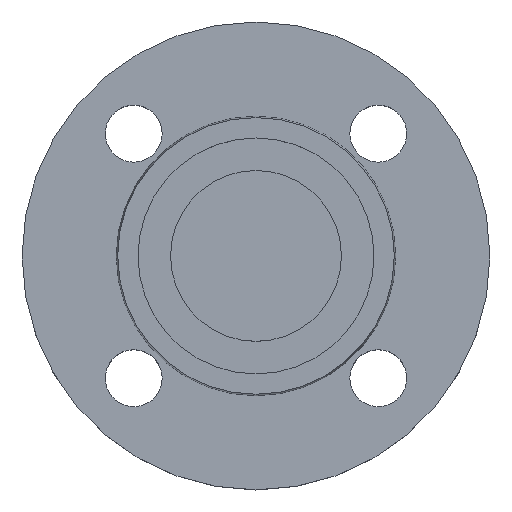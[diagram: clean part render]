
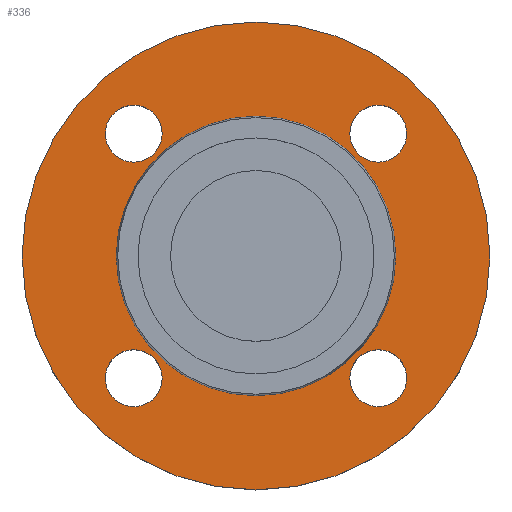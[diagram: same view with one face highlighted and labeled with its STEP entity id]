
A CAD part, top view. The second image highlights one B-rep face of the part: STEP entity #336.
In plain terms, the highlighted planar face has unit normal (0, 0, 1).
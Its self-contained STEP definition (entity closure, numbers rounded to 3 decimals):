
#10 = AXIS2_PLACEMENT_3D ( 'NONE', #650, #651, #652 ) ;
#14 = CIRCLE ( 'NONE', #136, 7. ) ;
#20 = CARTESIAN_POINT ( 'NONE',  ( -57.5, 0., -2. ) ) ;
#30 = DIRECTION ( 'NONE',  ( 0., 0., -1. ) ) ;
#34 = EDGE_CURVE ( 'NONE', #303, #452, #14, .T. ) ;
#44 = CIRCLE ( 'NONE', #184, 7. ) ;
#46 = CARTESIAN_POINT ( 'NONE',  ( -30.052, -30.052, -2. ) ) ;
#49 = DIRECTION ( 'NONE',  ( 1., 0., 0. ) ) ;
#57 = CARTESIAN_POINT ( 'NONE',  ( -34.353, 0., -2. ) ) ;
#61 = CIRCLE ( 'NONE', #86, 7. ) ;
#62 = EDGE_CURVE ( 'NONE', #456, #438, #676, .T. ) ;
#65 = CARTESIAN_POINT ( 'NONE',  ( -37.052, -30.052, -2. ) ) ;
#86 = AXIS2_PLACEMENT_3D ( 'NONE', #517, #518, #519 ) ;
#90 = AXIS2_PLACEMENT_3D ( 'NONE', #169, #180, #181 ) ;
#94 = CARTESIAN_POINT ( 'NONE',  ( 34.353, 0., -2. ) ) ;
#97 = CIRCLE ( 'NONE', #363, 7. ) ;
#103 = DIRECTION ( 'NONE',  ( 0., 0., -1. ) ) ;
#106 = CARTESIAN_POINT ( 'NONE',  ( -30.052, 30.052, -2. ) ) ;
#108 = EDGE_CURVE ( 'NONE', #380, #421, #61, .T. ) ;
#112 = CARTESIAN_POINT ( 'NONE',  ( 23.052, 30.052, -2. ) ) ;
#118 = CARTESIAN_POINT ( 'NONE',  ( 0., 0., -2. ) ) ;
#119 = EDGE_CURVE ( 'NONE', #421, #380, #194, .T. ) ;
#121 = DIRECTION ( 'NONE',  ( 0., 0., -1. ) ) ;
#122 = DIRECTION ( 'NONE',  ( -1., 0., 0. ) ) ;
#123 = CARTESIAN_POINT ( 'NONE',  ( 0., 0., -2. ) ) ;
#124 = DIRECTION ( 'NONE',  ( 0., 0., -1. ) ) ;
#126 = DIRECTION ( 'NONE',  ( -1., 0., 0. ) ) ;
#129 = CARTESIAN_POINT ( 'NONE',  ( -37.052, 30.052, -2. ) ) ;
#135 = AXIS2_PLACEMENT_3D ( 'NONE', #582, #583, #584 ) ;
#136 = AXIS2_PLACEMENT_3D ( 'NONE', #495, #496, #497 ) ;
#146 = CIRCLE ( 'NONE', #10, 7. ) ;
#158 = EDGE_CURVE ( 'NONE', #452, #303, #215, .T. ) ;
#160 = FACE_BOUND ( 'NONE', #327, .T. ) ;
#161 = FACE_BOUND ( 'NONE', #462, .T. ) ;
#163 = FACE_BOUND ( 'NONE', #448, .T. ) ;
#164 = FACE_BOUND ( 'NONE', #459, .T. ) ;
#165 = FACE_BOUND ( 'NONE', #339, .T. ) ;
#166 = FACE_OUTER_BOUND ( 'NONE', #436, .T. ) ;
#168 = PLANE ( 'NONE',  #90 ) ;
#169 = CARTESIAN_POINT ( 'NONE',  ( 34.353, 0., -2. ) ) ;
#171 = EDGE_CURVE ( 'NONE', #438, #456, #253, .T. ) ;
#173 = AXIS2_PLACEMENT_3D ( 'NONE', #118, #121, #122 ) ;
#179 = CARTESIAN_POINT ( 'NONE',  ( 37.052, 30.052, -2. ) ) ;
#180 = DIRECTION ( 'NONE',  ( 0., 0., 1. ) ) ;
#181 = DIRECTION ( 'NONE',  ( 1., 0., 0. ) ) ;
#184 = AXIS2_PLACEMENT_3D ( 'NONE', #656, #657, #658 ) ;
#190 = DIRECTION ( 'NONE',  ( 0., 0., -1. ) ) ;
#194 = CIRCLE ( 'NONE', #333, 7. ) ;
#198 = CARTESIAN_POINT ( 'NONE',  ( 57.5, 0., -2. ) ) ;
#206 = AXIS2_PLACEMENT_3D ( 'NONE', #46, #30, #49 ) ;
#210 = CIRCLE ( 'NONE', #206, 7. ) ;
#214 = AXIS2_PLACEMENT_3D ( 'NONE', #106, #103, #675 ) ;
#215 = CIRCLE ( 'NONE', #214, 7. ) ;
#229 = AXIS2_PLACEMENT_3D ( 'NONE', #123, #124, #126 ) ;
#233 = CIRCLE ( 'NONE', #229, 34.353 ) ;
#252 = EDGE_CURVE ( 'NONE', #453, #271, #146, .T. ) ;
#253 = CIRCLE ( 'NONE', #135, 57.5 ) ;
#258 = CARTESIAN_POINT ( 'NONE',  ( -23.052, 30.052, -2. ) ) ;
#261 = CARTESIAN_POINT ( 'NONE',  ( 23.052, -30.052, -2. ) ) ;
#262 = EDGE_CURVE ( 'NONE', #473, #293, #44, .T. ) ;
#266 = DIRECTION ( 'NONE',  ( 1., 0., 0. ) ) ;
#267 = CARTESIAN_POINT ( 'NONE',  ( 37.052, -30.052, -2. ) ) ;
#271 = VERTEX_POINT ( 'NONE', #659 ) ;
#293 = VERTEX_POINT ( 'NONE', #112 ) ;
#294 = EDGE_CURVE ( 'NONE', #437, #431, #542, .T. ) ;
#297 = EDGE_CURVE ( 'NONE', #431, #437, #233, .T. ) ;
#303 = VERTEX_POINT ( 'NONE', #129 ) ;
#306 = AXIS2_PLACEMENT_3D ( 'NONE', #503, #504, #505 ) ;
#327 = EDGE_LOOP ( 'NONE', ( #415, #413 ) ) ;
#333 = AXIS2_PLACEMENT_3D ( 'NONE', #526, #527, #528 ) ;
#336 = ADVANCED_FACE ( 'NONE', ( #160, #161, #163, #164, #165, #166 ), #168, .T. ) ;
#339 = EDGE_LOOP ( 'NONE', ( #400, #398 ) ) ;
#359 = EDGE_CURVE ( 'NONE', #271, #453, #210, .T. ) ;
#363 = AXIS2_PLACEMENT_3D ( 'NONE', #368, #190, #266 ) ;
#368 = CARTESIAN_POINT ( 'NONE',  ( 30.052, 30.052, -2. ) ) ;
#380 = VERTEX_POINT ( 'NONE', #261 ) ;
#395 = ORIENTED_EDGE ( 'NONE', *, *, #171, .F. ) ;
#397 = ORIENTED_EDGE ( 'NONE', *, *, #62, .F. ) ;
#398 = ORIENTED_EDGE ( 'NONE', *, *, #297, .T. ) ;
#400 = ORIENTED_EDGE ( 'NONE', *, *, #294, .T. ) ;
#402 = ORIENTED_EDGE ( 'NONE', *, *, #671, .T. ) ;
#403 = ORIENTED_EDGE ( 'NONE', *, *, #262, .T. ) ;
#404 = ORIENTED_EDGE ( 'NONE', *, *, #34, .T. ) ;
#405 = ORIENTED_EDGE ( 'NONE', *, *, #158, .T. ) ;
#406 = ORIENTED_EDGE ( 'NONE', *, *, #252, .T. ) ;
#409 = ORIENTED_EDGE ( 'NONE', *, *, #359, .T. ) ;
#413 = ORIENTED_EDGE ( 'NONE', *, *, #108, .T. ) ;
#415 = ORIENTED_EDGE ( 'NONE', *, *, #119, .T. ) ;
#421 = VERTEX_POINT ( 'NONE', #267 ) ;
#431 = VERTEX_POINT ( 'NONE', #94 ) ;
#436 = EDGE_LOOP ( 'NONE', ( #397, #395 ) ) ;
#437 = VERTEX_POINT ( 'NONE', #57 ) ;
#438 = VERTEX_POINT ( 'NONE', #20 ) ;
#448 = EDGE_LOOP ( 'NONE', ( #405, #404 ) ) ;
#452 = VERTEX_POINT ( 'NONE', #258 ) ;
#453 = VERTEX_POINT ( 'NONE', #65 ) ;
#456 = VERTEX_POINT ( 'NONE', #198 ) ;
#459 = EDGE_LOOP ( 'NONE', ( #403, #402 ) ) ;
#462 = EDGE_LOOP ( 'NONE', ( #409, #406 ) ) ;
#473 = VERTEX_POINT ( 'NONE', #179 ) ;
#495 = CARTESIAN_POINT ( 'NONE',  ( -30.052, 30.052, -2. ) ) ;
#496 = DIRECTION ( 'NONE',  ( 0., 0., -1. ) ) ;
#497 = DIRECTION ( 'NONE',  ( 1., 0., 0. ) ) ;
#503 = CARTESIAN_POINT ( 'NONE',  ( 0., 0., -2. ) ) ;
#504 = DIRECTION ( 'NONE',  ( 0., 0., -1. ) ) ;
#505 = DIRECTION ( 'NONE',  ( -1., 0., 0. ) ) ;
#517 = CARTESIAN_POINT ( 'NONE',  ( 30.052, -30.052, -2. ) ) ;
#518 = DIRECTION ( 'NONE',  ( 0., 0., -1. ) ) ;
#519 = DIRECTION ( 'NONE',  ( 1., 0., 0. ) ) ;
#526 = CARTESIAN_POINT ( 'NONE',  ( 30.052, -30.052, -2. ) ) ;
#527 = DIRECTION ( 'NONE',  ( 0., 0., -1. ) ) ;
#528 = DIRECTION ( 'NONE',  ( 1., 0., 0. ) ) ;
#542 = CIRCLE ( 'NONE', #173, 34.353 ) ;
#582 = CARTESIAN_POINT ( 'NONE',  ( 0., 0., -2. ) ) ;
#583 = DIRECTION ( 'NONE',  ( 0., 0., -1. ) ) ;
#584 = DIRECTION ( 'NONE',  ( -1., 0., 0. ) ) ;
#650 = CARTESIAN_POINT ( 'NONE',  ( -30.052, -30.052, -2. ) ) ;
#651 = DIRECTION ( 'NONE',  ( 0., 0., -1. ) ) ;
#652 = DIRECTION ( 'NONE',  ( 1., 0., 0. ) ) ;
#656 = CARTESIAN_POINT ( 'NONE',  ( 30.052, 30.052, -2. ) ) ;
#657 = DIRECTION ( 'NONE',  ( 0., 0., -1. ) ) ;
#658 = DIRECTION ( 'NONE',  ( 1., 0., 0. ) ) ;
#659 = CARTESIAN_POINT ( 'NONE',  ( -23.052, -30.052, -2. ) ) ;
#671 = EDGE_CURVE ( 'NONE', #293, #473, #97, .T. ) ;
#675 = DIRECTION ( 'NONE',  ( 1., 0., 0. ) ) ;
#676 = CIRCLE ( 'NONE', #306, 57.5 ) ;
